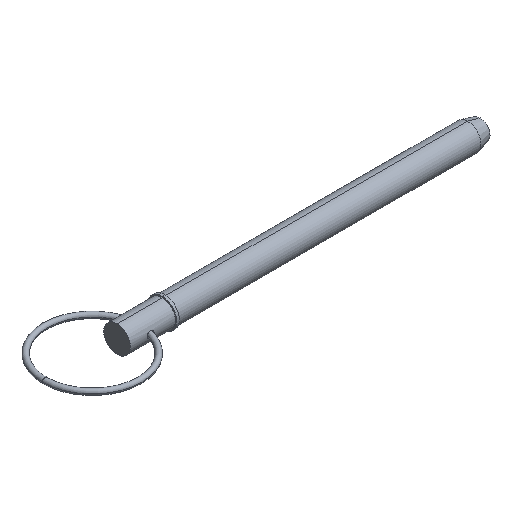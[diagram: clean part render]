
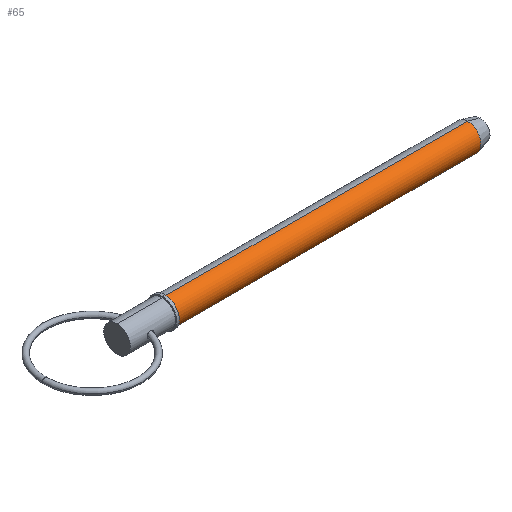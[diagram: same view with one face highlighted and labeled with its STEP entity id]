
A CAD part, isometric view. The second image highlights one B-rep face of the part: STEP entity #65.
In plain terms, the highlighted cylindrical face has radius 7.145 mm (diameter 14.29 mm), a partial arc.
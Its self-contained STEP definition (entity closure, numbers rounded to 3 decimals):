
#23 = DIRECTION ( 'NONE',  ( 1., 0., 0. ) ) ;
#27 = CARTESIAN_POINT ( 'NONE',  ( 0., 0., -7.145 ) ) ;
#31 = CIRCLE ( 'NONE', #910, 7.145 ) ;
#37 = VERTEX_POINT ( 'NONE', #145 ) ;
#60 = CYLINDRICAL_SURFACE ( 'NONE', #470, 7.145 ) ;
#64 = AXIS2_PLACEMENT_3D ( 'NONE', #207, #307, #366 ) ;
#65 = ADVANCED_FACE ( 'NONE', ( #791 ), #60, .T. ) ;
#66 = VECTOR ( 'NONE', #315, 1000. ) ;
#88 = VERTEX_POINT ( 'NONE', #936 ) ;
#111 = LINE ( 'NONE', #27, #288 ) ;
#143 = CARTESIAN_POINT ( 'NONE',  ( 188.884, 0., 7.145 ) ) ;
#145 = CARTESIAN_POINT ( 'NONE',  ( 25.7, 0., -7.145 ) ) ;
#207 = CARTESIAN_POINT ( 'NONE',  ( 188.884, 0., 0. ) ) ;
#250 = EDGE_CURVE ( 'NONE', #37, #88, #111, .T. ) ;
#262 = CARTESIAN_POINT ( 'NONE',  ( 25.7, 0., 7.145 ) ) ;
#288 = VECTOR ( 'NONE', #23, 1000. ) ;
#297 = CARTESIAN_POINT ( 'NONE',  ( 0., 0., 0. ) ) ;
#306 = EDGE_CURVE ( 'NONE', #318, #973, #377, .T. ) ;
#307 = DIRECTION ( 'NONE',  ( 1., 0., 0. ) ) ;
#309 = DIRECTION ( 'NONE',  ( 0., 0., -1. ) ) ;
#315 = DIRECTION ( 'NONE',  ( 1., 0., 0. ) ) ;
#318 = VERTEX_POINT ( 'NONE', #262 ) ;
#366 = DIRECTION ( 'NONE',  ( 0., 0., -1. ) ) ;
#377 = LINE ( 'NONE', #700, #66 ) ;
#394 = EDGE_CURVE ( 'NONE', #973, #88, #679, .T. ) ;
#443 = DIRECTION ( 'NONE',  ( 1., 0., 0. ) ) ;
#470 = AXIS2_PLACEMENT_3D ( 'NONE', #297, #940, #309 ) ;
#509 = ORIENTED_EDGE ( 'NONE', *, *, #586, .T. ) ;
#586 = EDGE_CURVE ( 'NONE', #318, #37, #31, .T. ) ;
#649 = EDGE_LOOP ( 'NONE', ( #742, #509, #969, #947 ) ) ;
#679 = CIRCLE ( 'NONE', #64, 7.145 ) ;
#689 = CARTESIAN_POINT ( 'NONE',  ( 25.7, 0., 0. ) ) ;
#700 = CARTESIAN_POINT ( 'NONE',  ( 0., 0., 7.145 ) ) ;
#742 = ORIENTED_EDGE ( 'NONE', *, *, #306, .F. ) ;
#770 = DIRECTION ( 'NONE',  ( 0., 0., -1. ) ) ;
#791 = FACE_OUTER_BOUND ( 'NONE', #649, .T. ) ;
#910 = AXIS2_PLACEMENT_3D ( 'NONE', #689, #443, #770 ) ;
#936 = CARTESIAN_POINT ( 'NONE',  ( 188.884, 0., -7.145 ) ) ;
#940 = DIRECTION ( 'NONE',  ( 1., 0., 0. ) ) ;
#947 = ORIENTED_EDGE ( 'NONE', *, *, #394, .F. ) ;
#969 = ORIENTED_EDGE ( 'NONE', *, *, #250, .T. ) ;
#973 = VERTEX_POINT ( 'NONE', #143 ) ;
